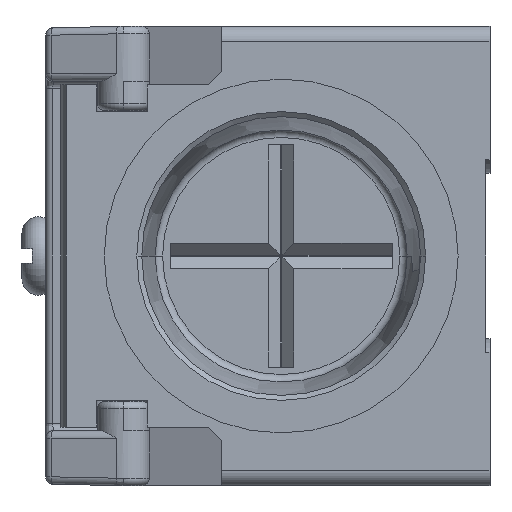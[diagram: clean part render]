
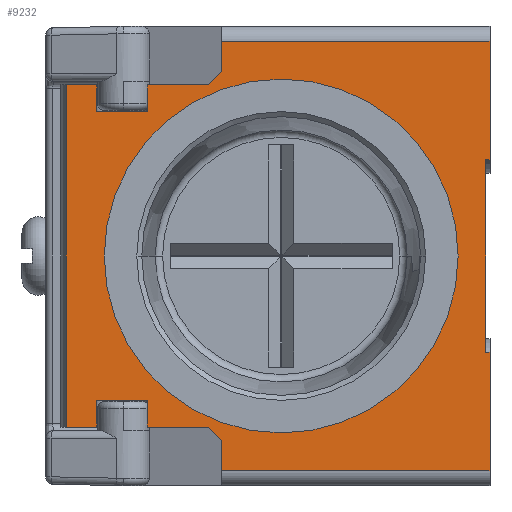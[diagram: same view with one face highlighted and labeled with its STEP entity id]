
A CAD part, left-side view. The second image highlights one B-rep face of the part: STEP entity #9232.
In plain terms, the highlighted planar face has unit normal (-1, 0, 0).
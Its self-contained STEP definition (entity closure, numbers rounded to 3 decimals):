
#6619 = VERTEX_POINT('',#6620);
#6620 = CARTESIAN_POINT('',(-16.956,23.963,6.5));
#6626 = EDGE_CURVE('',#6627,#6619,#6629,.T.);
#6627 = VERTEX_POINT('',#6628);
#6628 = CARTESIAN_POINT('',(-16.956,23.963,-6.5));
#6629 = LINE('',#6630,#6631);
#6630 = CARTESIAN_POINT('',(-16.956,23.963,-6.5));
#6631 = VECTOR('',#6632,1.);
#6632 = DIRECTION('',(0.,0.,1.));
#7957 = VERTEX_POINT('',#7958);
#7958 = CARTESIAN_POINT('',(-16.956,23.663,-6.5));
#7964 = EDGE_CURVE('',#7965,#7957,#7967,.T.);
#7965 = VERTEX_POINT('',#7966);
#7966 = CARTESIAN_POINT('',(-16.956,23.663,-14.5));
#7967 = LINE('',#7968,#7969);
#7968 = CARTESIAN_POINT('',(-16.956,23.663,-14.5));
#7969 = VECTOR('',#7970,1.);
#7970 = DIRECTION('',(0.,0.,1.));
#8264 = VERTEX_POINT('',#8265);
#8265 = CARTESIAN_POINT('',(-16.956,42.663,11.55));
#8271 = EDGE_CURVE('',#8272,#8264,#8274,.T.);
#8272 = VERTEX_POINT('',#8273);
#8273 = CARTESIAN_POINT('',(-16.956,41.763,12.45));
#8274 = LINE('',#8275,#8276);
#8275 = CARTESIAN_POINT('',(-16.956,41.763,12.45));
#8276 = VECTOR('',#8277,1.);
#8277 = DIRECTION('',(0.,0.707,-0.707));
#8297 = EDGE_CURVE('',#8272,#8298,#8300,.T.);
#8298 = VERTEX_POINT('',#8299);
#8299 = CARTESIAN_POINT('',(-16.956,41.763,14.5));
#8300 = LINE('',#8301,#8302);
#8301 = CARTESIAN_POINT('',(-16.956,41.763,12.45));
#8302 = VECTOR('',#8303,1.);
#8303 = DIRECTION('',(0.,0.,1.));
#8320 = EDGE_CURVE('',#8321,#8323,#8325,.T.);
#8321 = VERTEX_POINT('',#8322);
#8322 = CARTESIAN_POINT('',(-16.956,41.763,-14.5));
#8323 = VERTEX_POINT('',#8324);
#8324 = CARTESIAN_POINT('',(-16.956,41.763,-12.45));
#8325 = LINE('',#8326,#8327);
#8326 = CARTESIAN_POINT('',(-16.956,41.763,-14.5));
#8327 = VECTOR('',#8328,1.);
#8328 = DIRECTION('',(0.,0.,1.));
#8353 = EDGE_CURVE('',#8354,#8298,#8356,.T.);
#8354 = VERTEX_POINT('',#8355);
#8355 = CARTESIAN_POINT('',(-16.956,23.663,14.5));
#8356 = LINE('',#8357,#8358);
#8357 = CARTESIAN_POINT('',(-16.956,23.663,14.5));
#8358 = VECTOR('',#8359,1.);
#8359 = DIRECTION('',(0.,1.,0.));
#8465 = EDGE_CURVE('',#8354,#8466,#8468,.T.);
#8466 = VERTEX_POINT('',#8467);
#8467 = CARTESIAN_POINT('',(-16.956,23.663,6.5));
#8468 = LINE('',#8469,#8470);
#8469 = CARTESIAN_POINT('',(-16.956,23.663,14.5));
#8470 = VECTOR('',#8471,1.);
#8471 = DIRECTION('',(0.,0.,-1.));
#9221 = EDGE_CURVE('',#6619,#8466,#9222,.T.);
#9222 = LINE('',#9223,#9224);
#9223 = CARTESIAN_POINT('',(-16.956,23.963,6.5));
#9224 = VECTOR('',#9225,1.);
#9225 = DIRECTION('',(0.,-1.,0.));
#9232 = ADVANCED_FACE('',(#9233,#9349),#9369,.T.);
#9233 = FACE_BOUND('',#9234,.T.);
#9234 = EDGE_LOOP('',(#9235,#9236,#9237,#9245,#9253,#9261,#9269,#9277,
    #9285,#9293,#9301,#9309,#9317,#9325,#9331,#9332,#9338,#9339,#9345,
    #9346,#9347,#9348));
#9235 = ORIENTED_EDGE('',*,*,#8297,.F.);
#9236 = ORIENTED_EDGE('',*,*,#8271,.T.);
#9237 = ORIENTED_EDGE('',*,*,#9238,.F.);
#9238 = EDGE_CURVE('',#9239,#8264,#9241,.T.);
#9239 = VERTEX_POINT('',#9240);
#9240 = CARTESIAN_POINT('',(-16.956,46.813,11.55));
#9241 = LINE('',#9242,#9243);
#9242 = CARTESIAN_POINT('',(-16.956,46.813,11.55));
#9243 = VECTOR('',#9244,1.);
#9244 = DIRECTION('',(0.,-1.,0.));
#9245 = ORIENTED_EDGE('',*,*,#9246,.F.);
#9246 = EDGE_CURVE('',#9247,#9239,#9249,.T.);
#9247 = VERTEX_POINT('',#9248);
#9248 = CARTESIAN_POINT('',(-16.956,46.813,9.75));
#9249 = LINE('',#9250,#9251);
#9250 = CARTESIAN_POINT('',(-16.956,46.813,9.75));
#9251 = VECTOR('',#9252,1.);
#9252 = DIRECTION('',(0.,0.,1.));
#9253 = ORIENTED_EDGE('',*,*,#9254,.T.);
#9254 = EDGE_CURVE('',#9247,#9255,#9257,.T.);
#9255 = VERTEX_POINT('',#9256);
#9256 = CARTESIAN_POINT('',(-16.956,50.213,9.75));
#9257 = LINE('',#9258,#9259);
#9258 = CARTESIAN_POINT('',(-16.956,46.813,9.75));
#9259 = VECTOR('',#9260,1.);
#9260 = DIRECTION('',(0.,1.,0.));
#9261 = ORIENTED_EDGE('',*,*,#9262,.T.);
#9262 = EDGE_CURVE('',#9255,#9263,#9265,.T.);
#9263 = VERTEX_POINT('',#9264);
#9264 = CARTESIAN_POINT('',(-16.956,50.213,11.55));
#9265 = LINE('',#9266,#9267);
#9266 = CARTESIAN_POINT('',(-16.956,50.213,9.75));
#9267 = VECTOR('',#9268,1.);
#9268 = DIRECTION('',(0.,0.,1.));
#9269 = ORIENTED_EDGE('',*,*,#9270,.F.);
#9270 = EDGE_CURVE('',#9271,#9263,#9273,.T.);
#9271 = VERTEX_POINT('',#9272);
#9272 = CARTESIAN_POINT('',(-16.956,52.263,11.55));
#9273 = LINE('',#9274,#9275);
#9274 = CARTESIAN_POINT('',(-16.956,52.263,11.55));
#9275 = VECTOR('',#9276,1.);
#9276 = DIRECTION('',(0.,-1.,0.));
#9277 = ORIENTED_EDGE('',*,*,#9278,.T.);
#9278 = EDGE_CURVE('',#9271,#9279,#9281,.T.);
#9279 = VERTEX_POINT('',#9280);
#9280 = CARTESIAN_POINT('',(-16.956,52.263,-11.55));
#9281 = LINE('',#9282,#9283);
#9282 = CARTESIAN_POINT('',(-16.956,52.263,11.55));
#9283 = VECTOR('',#9284,1.);
#9284 = DIRECTION('',(0.,0.,-1.));
#9285 = ORIENTED_EDGE('',*,*,#9286,.T.);
#9286 = EDGE_CURVE('',#9279,#9287,#9289,.T.);
#9287 = VERTEX_POINT('',#9288);
#9288 = CARTESIAN_POINT('',(-16.956,50.213,-11.55));
#9289 = LINE('',#9290,#9291);
#9290 = CARTESIAN_POINT('',(-16.956,52.263,-11.55));
#9291 = VECTOR('',#9292,1.);
#9292 = DIRECTION('',(0.,-1.,0.));
#9293 = ORIENTED_EDGE('',*,*,#9294,.F.);
#9294 = EDGE_CURVE('',#9295,#9287,#9297,.T.);
#9295 = VERTEX_POINT('',#9296);
#9296 = CARTESIAN_POINT('',(-16.956,50.213,-9.75));
#9297 = LINE('',#9298,#9299);
#9298 = CARTESIAN_POINT('',(-16.956,50.213,-9.75));
#9299 = VECTOR('',#9300,1.);
#9300 = DIRECTION('',(0.,0.,-1.));
#9301 = ORIENTED_EDGE('',*,*,#9302,.F.);
#9302 = EDGE_CURVE('',#9303,#9295,#9305,.T.);
#9303 = VERTEX_POINT('',#9304);
#9304 = CARTESIAN_POINT('',(-16.956,46.813,-9.75));
#9305 = LINE('',#9306,#9307);
#9306 = CARTESIAN_POINT('',(-16.956,46.813,-9.75));
#9307 = VECTOR('',#9308,1.);
#9308 = DIRECTION('',(0.,1.,0.));
#9309 = ORIENTED_EDGE('',*,*,#9310,.T.);
#9310 = EDGE_CURVE('',#9303,#9311,#9313,.T.);
#9311 = VERTEX_POINT('',#9312);
#9312 = CARTESIAN_POINT('',(-16.956,46.813,-11.55));
#9313 = LINE('',#9314,#9315);
#9314 = CARTESIAN_POINT('',(-16.956,46.813,-9.75));
#9315 = VECTOR('',#9316,1.);
#9316 = DIRECTION('',(0.,0.,-1.));
#9317 = ORIENTED_EDGE('',*,*,#9318,.T.);
#9318 = EDGE_CURVE('',#9311,#9319,#9321,.T.);
#9319 = VERTEX_POINT('',#9320);
#9320 = CARTESIAN_POINT('',(-16.956,42.663,-11.55));
#9321 = LINE('',#9322,#9323);
#9322 = CARTESIAN_POINT('',(-16.956,46.813,-11.55));
#9323 = VECTOR('',#9324,1.);
#9324 = DIRECTION('',(0.,-1.,0.));
#9325 = ORIENTED_EDGE('',*,*,#9326,.T.);
#9326 = EDGE_CURVE('',#9319,#8323,#9327,.T.);
#9327 = LINE('',#9328,#9329);
#9328 = CARTESIAN_POINT('',(-16.956,42.663,-11.55));
#9329 = VECTOR('',#9330,1.);
#9330 = DIRECTION('',(0.,-0.707,-0.707));
#9331 = ORIENTED_EDGE('',*,*,#8320,.F.);
#9332 = ORIENTED_EDGE('',*,*,#9333,.T.);
#9333 = EDGE_CURVE('',#8321,#7965,#9334,.T.);
#9334 = LINE('',#9335,#9336);
#9335 = CARTESIAN_POINT('',(-16.956,41.763,-14.5));
#9336 = VECTOR('',#9337,1.);
#9337 = DIRECTION('',(0.,-1.,0.));
#9338 = ORIENTED_EDGE('',*,*,#7964,.T.);
#9339 = ORIENTED_EDGE('',*,*,#9340,.F.);
#9340 = EDGE_CURVE('',#6627,#7957,#9341,.T.);
#9341 = LINE('',#9342,#9343);
#9342 = CARTESIAN_POINT('',(-16.956,23.963,-6.5));
#9343 = VECTOR('',#9344,1.);
#9344 = DIRECTION('',(0.,-1.,0.));
#9345 = ORIENTED_EDGE('',*,*,#6626,.T.);
#9346 = ORIENTED_EDGE('',*,*,#9221,.T.);
#9347 = ORIENTED_EDGE('',*,*,#8465,.F.);
#9348 = ORIENTED_EDGE('',*,*,#8353,.T.);
#9349 = FACE_BOUND('',#9350,.T.);
#9350 = EDGE_LOOP('',(#9351,#9362));
#9351 = ORIENTED_EDGE('',*,*,#9352,.F.);
#9352 = EDGE_CURVE('',#9353,#9355,#9357,.T.);
#9353 = VERTEX_POINT('',#9354);
#9354 = CARTESIAN_POINT('',(-16.956,37.763,-9.75));
#9355 = VERTEX_POINT('',#9356);
#9356 = CARTESIAN_POINT('',(-16.956,37.763,9.75));
#9357 = CIRCLE('',#9358,9.75);
#9358 = AXIS2_PLACEMENT_3D('',#9359,#9360,#9361);
#9359 = CARTESIAN_POINT('',(-16.956,37.763,
    0.));
#9360 = DIRECTION('',(-1.,0.,0.));
#9361 = DIRECTION('',(0.,0.,-1.));
#9362 = ORIENTED_EDGE('',*,*,#9363,.F.);
#9363 = EDGE_CURVE('',#9355,#9353,#9364,.T.);
#9364 = CIRCLE('',#9365,9.75);
#9365 = AXIS2_PLACEMENT_3D('',#9366,#9367,#9368);
#9366 = CARTESIAN_POINT('',(-16.956,37.763,
    0.));
#9367 = DIRECTION('',(-1.,0.,0.));
#9368 = DIRECTION('',(0.,0.,1.));
#9369 = PLANE('',#9370);
#9370 = AXIS2_PLACEMENT_3D('',#9371,#9372,#9373);
#9371 = CARTESIAN_POINT('',(-16.956,48.763,-15.5));
#9372 = DIRECTION('',(-1.,0.,0.));
#9373 = DIRECTION('',(0.,0.,1.));
